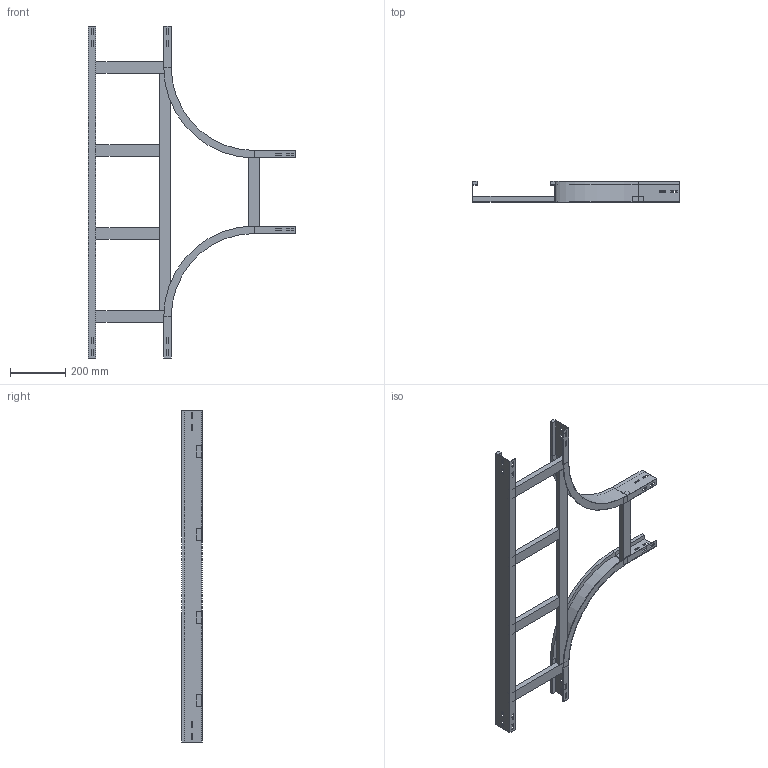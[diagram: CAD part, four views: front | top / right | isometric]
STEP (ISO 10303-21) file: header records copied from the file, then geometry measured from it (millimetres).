
FILE_DESCRIPTION (( 'STEP AP214' ), '1' );
FILE_NAME ('A2_15B3C300.step', '2025-02-21T15:53:07', ( '' ), ( '' ), 'SwSTEP 2.0', 'SolidWorks 2023', '' );
FILE_SCHEMA (( 'AUTOMOTIVE_DESIGN' ));
Length unit declared in the file: millimetre
Products named in the file (6): A2_LONGH.INTERNO 90°_H75_R300; TRAVERSINO_300; TRAVERSINO_INTERMEDIO_R300+300; A2_15B3C300; A2_TRAVERSINO_LONG._R300+300; A2_LONGH.RETT_H75_R300+300
Assembly tree (9 placements, depth 2):
  A2_15B3C300
    A2_LONGH.INTERNO 90°_H75_R300  x2
    A2_LONGH.RETT_H75_R300+300
    TRAVERSINO_300  x3
    A2_TRAVERSINO_LONG._R300+300
    TRAVERSINO_INTERMEDIO_R300+300  x2
Bounding box: 750 x 75 x 1200 mm (x, y, z)
Volume: 2905825 mm3; surface area: 932494.3 mm2
Topology: 9 solids, 9 shells, 194 faces, 496 edges, 320 vertices
Faces by surface type: plane 186, cylinder 8
Entity records: 3815 total; most frequent: CARTESIAN_POINT 638, ORIENTED_EDGE 616, DIRECTION 576, EDGE_CURVE 308, LINE 300, VECTOR 300, VERTEX_POINT 200, EDGE_LOOP 150
